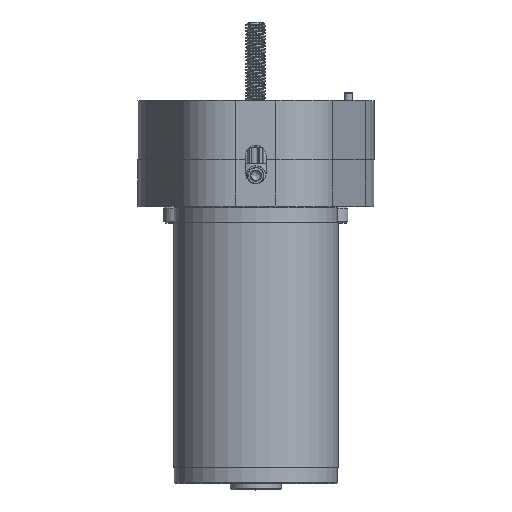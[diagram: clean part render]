
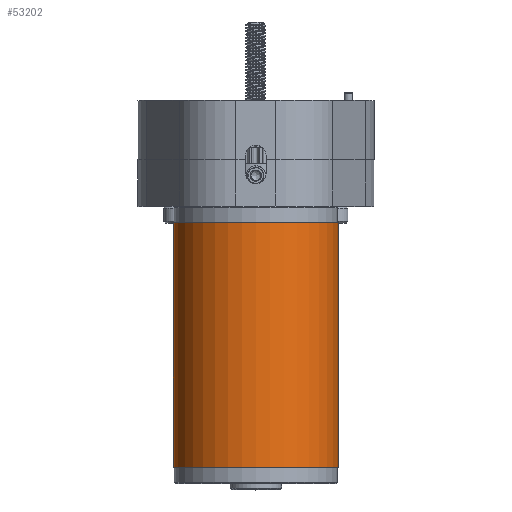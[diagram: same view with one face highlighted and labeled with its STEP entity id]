
A CAD part, top view. The second image highlights one B-rep face of the part: STEP entity #53202.
In plain terms, the highlighted cylindrical face has radius 20.2 mm (diameter 40.4 mm), a partial arc.
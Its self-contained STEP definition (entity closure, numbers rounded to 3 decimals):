
#1376 = EDGE_CURVE ( 'NONE', #58269, #46040, #29204, .T. ) ;
#2192 = CIRCLE ( 'NONE', #25741, 20.2 ) ;
#3195 = VECTOR ( 'NONE', #16153, 1000. ) ;
#3359 = LINE ( 'NONE', #16906, #50165 ) ;
#5387 = EDGE_CURVE ( 'NONE', #14653, #58269, #3359, .T. ) ;
#5819 = EDGE_LOOP ( 'NONE', ( #39587, #49931, #39042, #9088 ) ) ;
#6736 = DIRECTION ( 'NONE',  ( 1., 0., 0. ) ) ;
#6833 = CARTESIAN_POINT ( 'NONE',  ( 20.2, 0., -4. ) ) ;
#7055 = CARTESIAN_POINT ( 'NONE',  ( 20.2, 0., -68. ) ) ;
#9088 = ORIENTED_EDGE ( 'NONE', *, *, #1376, .F. ) ;
#9332 = CARTESIAN_POINT ( 'NONE',  ( 0., 0., -64. ) ) ;
#11085 = CARTESIAN_POINT ( 'NONE',  ( 0., 0., -68. ) ) ;
#12308 = CARTESIAN_POINT ( 'NONE',  ( -20.2, 0., -64. ) ) ;
#13858 = DIRECTION ( 'NONE',  ( -1., 0., 0. ) ) ;
#14117 = CARTESIAN_POINT ( 'NONE',  ( -20.2, 0., -4. ) ) ;
#14653 = VERTEX_POINT ( 'NONE', #12308 ) ;
#15634 = DIRECTION ( 'NONE',  ( 0., 0., 1. ) ) ;
#16153 = DIRECTION ( 'NONE',  ( 0., 0., 1. ) ) ;
#16672 = LINE ( 'NONE', #7055, #3195 ) ;
#16906 = CARTESIAN_POINT ( 'NONE',  ( -20.2, 0., -68. ) ) ;
#19531 = EDGE_CURVE ( 'NONE', #23011, #14653, #2192, .T. ) ;
#23011 = VERTEX_POINT ( 'NONE', #52258 ) ;
#23465 = CARTESIAN_POINT ( 'NONE',  ( 0., 0., -4. ) ) ;
#24511 = AXIS2_PLACEMENT_3D ( 'NONE', #11085, #15634, #6736 ) ;
#25741 = AXIS2_PLACEMENT_3D ( 'NONE', #9332, #41053, #13858 ) ;
#27961 = EDGE_CURVE ( 'NONE', #23011, #46040, #16672, .T. ) ;
#28017 = DIRECTION ( 'NONE',  ( 1., 0., 0. ) ) ;
#29204 = CIRCLE ( 'NONE', #56651, 20.2 ) ;
#39042 = ORIENTED_EDGE ( 'NONE', *, *, #27961, .T. ) ;
#39181 = CYLINDRICAL_SURFACE ( 'NONE', #24511, 20.2 ) ;
#39544 = DIRECTION ( 'NONE',  ( 0., 0., 1. ) ) ;
#39587 = ORIENTED_EDGE ( 'NONE', *, *, #5387, .F. ) ;
#41053 = DIRECTION ( 'NONE',  ( 0., 0., -1. ) ) ;
#46040 = VERTEX_POINT ( 'NONE', #6833 ) ;
#49931 = ORIENTED_EDGE ( 'NONE', *, *, #19531, .F. ) ;
#50165 = VECTOR ( 'NONE', #39544, 1000. ) ;
#52258 = CARTESIAN_POINT ( 'NONE',  ( 20.2, 0., -64. ) ) ;
#53202 = ADVANCED_FACE ( 'NONE', ( #56863 ), #39181, .T. ) ;
#55135 = DIRECTION ( 'NONE',  ( 0., 0., 1. ) ) ;
#56651 = AXIS2_PLACEMENT_3D ( 'NONE', #23465, #55135, #28017 ) ;
#56863 = FACE_OUTER_BOUND ( 'NONE', #5819, .T. ) ;
#58269 = VERTEX_POINT ( 'NONE', #14117 ) ;
